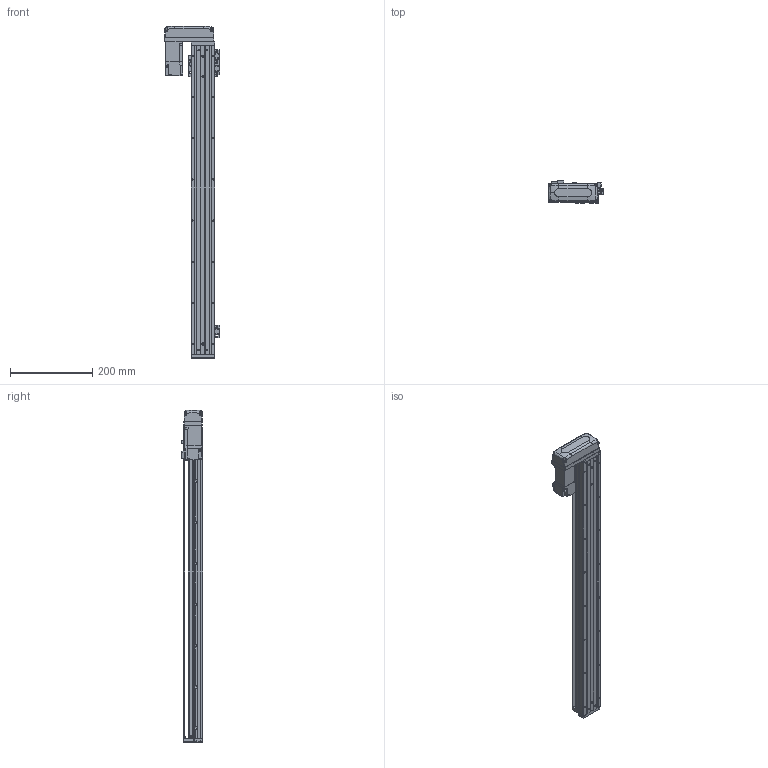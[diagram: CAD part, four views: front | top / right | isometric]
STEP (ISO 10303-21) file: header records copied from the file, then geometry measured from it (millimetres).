
FILE_DESCRIPTION (( 'STEP AP203' ), '1' );
FILE_NAME ('KTHA50-650-BR-M10-C4L.step', '2022-03-19T07:16:25', ( '微软用户' ), ( '微软中国' ), 'SwSTEP 2.0', 'SolidWorks 2020', '' );
FILE_SCHEMA (( 'CONFIG_CONTROL_DESIGN' ));
Length unit declared in the file: millimetre
Products named in the file (18): CTHA60-021; EE_SX911P_R; GBT 70.3-M3℅6; GBT77-2000 M3×3; HG-KR13（三菱）; KTHA50-001_750; GBT 70.1-M3℅6; CTHA50-015-2_CTHA60-015-2; KTHA50-002; CTHA60-017; CTHA60-033; KTHA50-004; GBT 70.1-M4×12; GBT 70.1-M3×15; KTHA50-005; CTHA60-016; KTHA50-650-BR-M10-C4L; GB¨uT 70.2-M3¡Á6_M3¡Á6
Assembly tree (53 placements, depth 2):
  KTHA50-650-BR-M10-C4L
    KTHA50-001_750
    KTHA50-002
    KTHA50-004
    KTHA50-005
    GB¨uT 70.2-M3¡Á6_M3¡Á6  x6
    EE_SX911P_R  x3
    GBT77-2000 M3×3  x6
    GBT 70.1-M3℅6  x6
    CTHA60-017  x3
    GBT 70.1-M4×12  x10
    CTHA60-016  x2
    CTHA60-021  x2
    GBT 70.3-M3℅6  x4
    HG-KR13（三菱）
    CTHA50-015-2_CTHA60-015-2
    CTHA60-033
    GBT 70.1-M3×15  x4
Bounding box: 133.82 x 52.3 x 807 mm (x, y, z)
Volume: 1580179.4 mm3; surface area: 386479.5 mm2
Topology: 56 solids, 56 shells, 2303 faces, 5463 edges, 3352 vertices
Faces by surface type: plane 1288, cylinder 562, cone 311, torus 100, bspline 26, sphere 16
Entity records: 39527 total; most frequent: CARTESIAN_POINT 7458, DIRECTION 6185, ORIENTED_EDGE 5938, EDGE_CURVE 2969, AXIS2_PLACEMENT_3D 2095, LINE 1995, VECTOR 1995, VERTEX_POINT 1866
